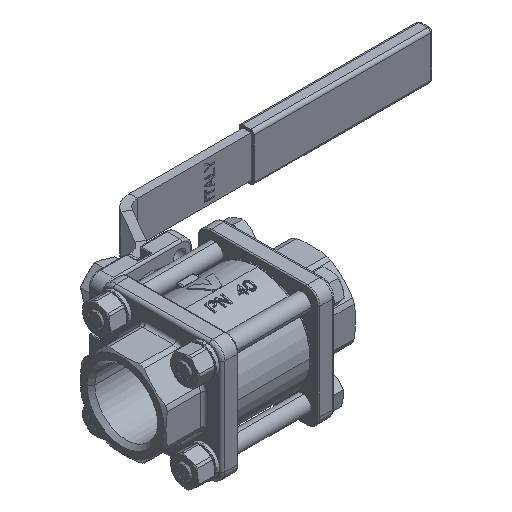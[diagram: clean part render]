
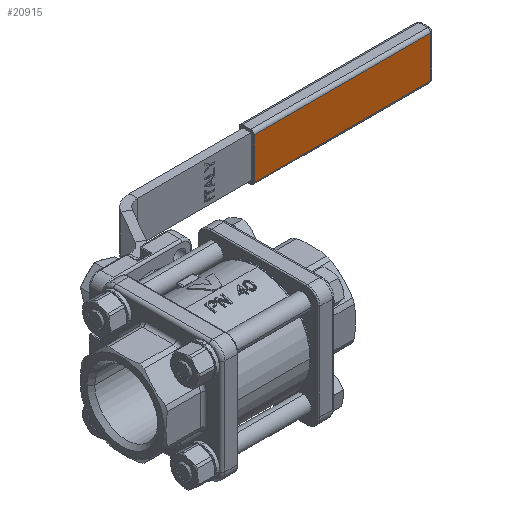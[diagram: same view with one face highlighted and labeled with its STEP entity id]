
A CAD part, isometric view. The second image highlights one B-rep face of the part: STEP entity #20915.
In plain terms, the highlighted planar face has unit normal (0, -1, 0).
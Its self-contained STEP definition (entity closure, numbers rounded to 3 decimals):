
#19524 = VERTEX_POINT ( 'NONE', #23208 ) ;
#20458 = EDGE_CURVE ( 'NONE', #20699, #19524, #23333, .T. ) ;
#20563 = ORIENTED_EDGE ( 'NONE', *, *, #20458, .F. ) ;
#20699 = VERTEX_POINT ( 'NONE', #23385 ) ;
#20709 = EDGE_CURVE ( 'NONE', #61047, #19524, #23427, .T. ) ;
#20769 = ORIENTED_EDGE ( 'NONE', *, *, #20709, .T. ) ;
#20864 = EDGE_LOOP ( 'NONE', ( #20769, #20563, #21286, #21318 ) ) ;
#20914 = EDGE_CURVE ( 'NONE', #20699, #61107, #23454, .T. ) ;
#20915 = ADVANCED_FACE ( 'NONE', ( #23450 ), #23449, .T. ) ;
#21286 = ORIENTED_EDGE ( 'NONE', *, *, #20914, .T. ) ;
#21318 = ORIENTED_EDGE ( 'NONE', *, *, #61044, .T. ) ;
#23208 = CARTESIAN_POINT ( 'NONE',  ( 88., 71., 9.9 ) ) ;
#23330 = DIRECTION ( 'NONE',  ( 0., 0., 1. ) ) ;
#23331 = VECTOR ( 'NONE', #23330, 1000. ) ;
#23332 = CARTESIAN_POINT ( 'NONE',  ( 88., 71., 0. ) ) ;
#23333 = LINE ( 'NONE', #23332, #23331 ) ;
#23385 = CARTESIAN_POINT ( 'NONE',  ( 88., 71., -9.9 ) ) ;
#23424 = DIRECTION ( 'NONE',  ( -1., 0., 0. ) ) ;
#23425 = VECTOR ( 'NONE', #23424, 1000. ) ;
#23426 = CARTESIAN_POINT ( 'NONE',  ( 130.25, 71., 9.9 ) ) ;
#23427 = LINE ( 'NONE', #23426, #23425 ) ;
#23444 = DIRECTION ( 'NONE',  ( 0., 0., -1. ) ) ;
#23445 = DIRECTION ( 'NONE',  ( 0., -1., 0. ) ) ;
#23446 = CARTESIAN_POINT ( 'NONE',  ( 88., 71., 9.9 ) ) ;
#23447 = AXIS2_PLACEMENT_3D ( 'NONE', #23446, #23445, #23444 ) ;
#23449 = PLANE ( 'NONE',  #23447 ) ;
#23450 = FACE_OUTER_BOUND ( 'NONE', #20864, .T. ) ;
#23451 = DIRECTION ( 'NONE',  ( 1., 0., 0. ) ) ;
#23452 = VECTOR ( 'NONE', #23451, 1000. ) ;
#23453 = CARTESIAN_POINT ( 'NONE',  ( 130.25, 71., -9.9 ) ) ;
#23454 = LINE ( 'NONE', #23453, #23452 ) ;
#55096 = CARTESIAN_POINT ( 'NONE',  ( 172.5, 71., 9.9 ) ) ;
#55097 = DIRECTION ( 'NONE',  ( 0., 0., 1. ) ) ;
#55098 = VECTOR ( 'NONE', #55097, 1000. ) ;
#55099 = CARTESIAN_POINT ( 'NONE',  ( 172.5, 71., 0. ) ) ;
#55100 = LINE ( 'NONE', #55099, #55098 ) ;
#56503 = CARTESIAN_POINT ( 'NONE',  ( 172.5, 71., -9.9 ) ) ;
#61044 = EDGE_CURVE ( 'NONE', #61107, #61047, #55100, .T. ) ;
#61047 = VERTEX_POINT ( 'NONE', #55096 ) ;
#61107 = VERTEX_POINT ( 'NONE', #56503 ) ;
